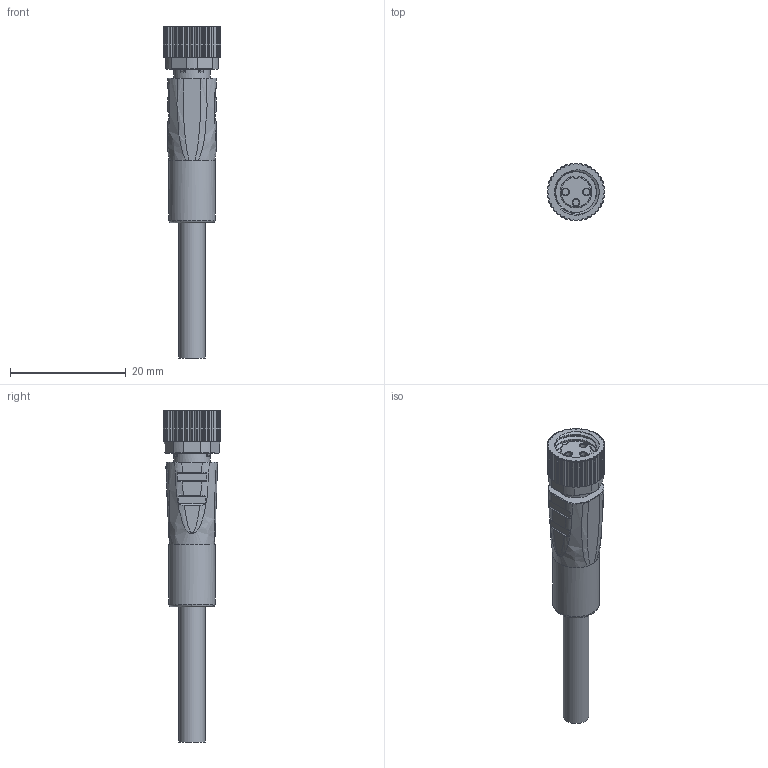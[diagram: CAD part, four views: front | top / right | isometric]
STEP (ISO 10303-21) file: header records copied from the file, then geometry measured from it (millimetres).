
FILE_DESCRIPTION(/* description */ (''),/* implementation_level */ '2;1');
FILE_NAME(/* name */ 'M8-3FS-L.stp',/* time_stamp */ '2025-04-30T08:37:24+08:00',/* author */ (''),/* organization */ (''),/* preprocessor_version */ 'ST-DEVELOPER v16.7',/* originating_system */ 'SIEMENS PLM Software NX 12.0',/* authorisation */ '');
FILE_SCHEMA (('AUTOMOTIVE_DESIGN { 1 0 10303 214 3 1 1 1 }'));
Length unit declared in the file: millimetre
Products named in the file (1): Admi29D80F4Ci99w
Bounding box: 10 x 10 x 57.3 mm (x, y, z)
Volume: 2172.6 mm3; surface area: 2001.3 mm2
Topology: 2 solids, 2 shells, 501 faces, 1398 edges, 921 vertices
Faces by surface type: plane 215, cylinder 146, cone 82, bspline 25, extrusion 22, torus 11
Full cylindrical faces by diameter (mm): 1.1 x3, 1.5 x3, 4.5 x1, 6.3 x1, 7 x1, 8 x1
Entity records: 19832 total; most frequent: CARTESIAN_POINT 7321, ORIENTED_EDGE 2752, DIRECTION 2433, EDGE_CURVE 1376, VERTEX_POINT 915, AXIS2_PLACEMENT_3D 885, VECTOR 663, LINE 641
